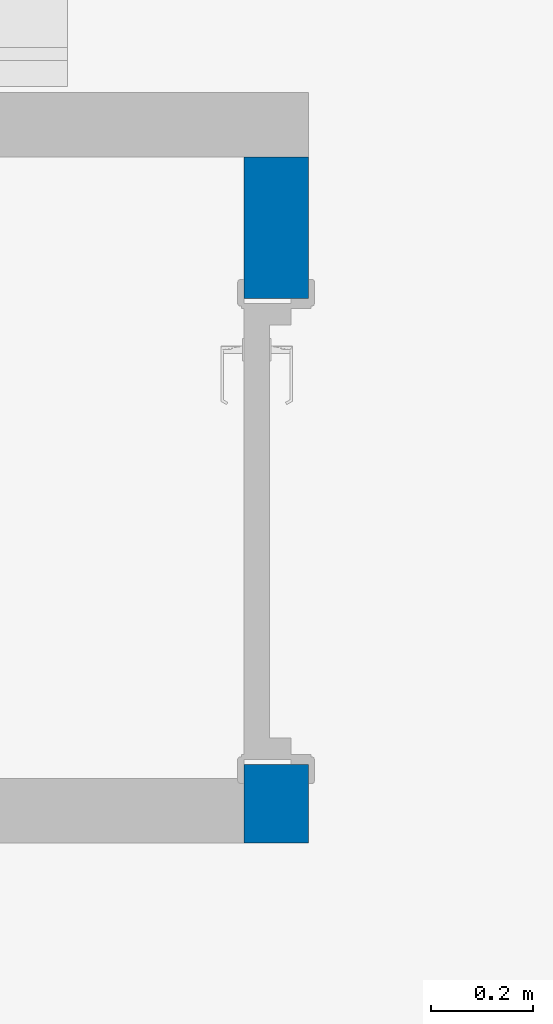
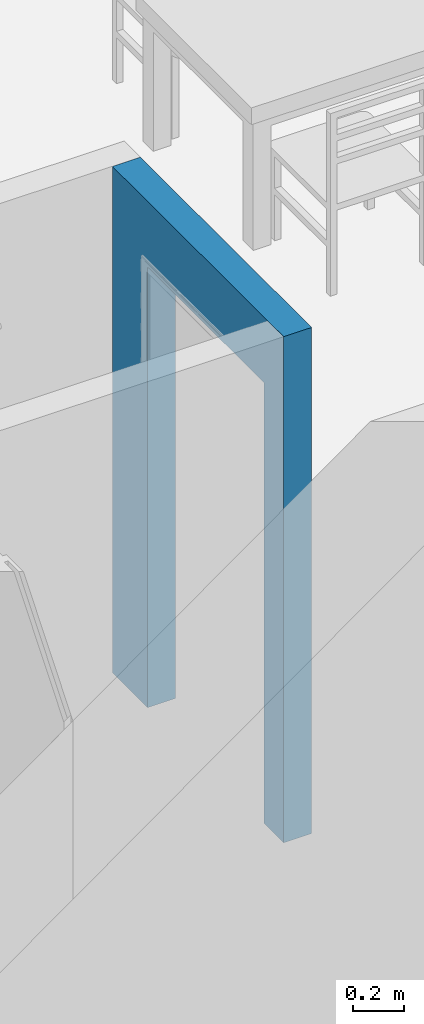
# One storey, part 17 of 65: 1 wall, 1 opening.
"""IFC2X3 building model written with IfcOpenShell, lengths in millimetres."""

from ifc_helpers import new_model, entity, si_unit, converted_unit, direction, frame, frame_2d, origin, place, context, subcontext, project, spatial, rectangle, extrude, material, layer, layer_set, layer_usage, type_object, element, save


model = new_model("IFC2X3")

# Units and contexts
model_context = context("Model", 3, precision=0.01, world=origin(), true_north=direction((0.0, 1.0)))
body_context = subcontext(model_context, "Body", "Model", "MODEL_VIEW")
ifc_project = project(units=[si_unit("LENGTHUNIT", "METRE", prefix="MILLI"), si_unit("AREAUNIT", "SQUARE_METRE"), si_unit("VOLUMEUNIT", "CUBIC_METRE"), converted_unit("PLANEANGLEUNIT", "DEGREE", entity("IfcPlaneAngleMeasure", 0.017453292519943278), si_unit("PLANEANGLEUNIT", "RADIAN"), dimensions=[0, 0, 0, 0, 0, 0, 0])], contexts=[model_context])

# Site, building, storey
site_placement = place(None, origin())
site = spatial("IfcSite", under=ifc_project, at=site_placement, Name="Default", CompositionType="ELEMENT")
building_placement = place(site_placement, origin())
building = spatial("IfcBuilding", under=site, at=building_placement, CompositionType="ELEMENT")
storey_placement = place(building_placement, origin())
storey = spatial("IfcBuildingStorey", under=building, at=storey_placement, Name="Et. 1", CompositionType="ELEMENT", Elevation=0.0)

# Wall, opening
ifc_material_1 = material(Name="Vegg - Gips - Innvendig - Hvit")
ifc_layer_1 = layer(ifc_material_1, 13.000000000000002)
ifc_material_2 = material(Name="Vegg - Stender - Stål - Isolert")
ifc_layer_2 = layer(ifc_material_2, 100.0)
ifc_layer_3 = layer(ifc_material_1, 13.000000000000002)
ifc_layer_set = layer_set([ifc_layer_1, ifc_layer_2, ifc_layer_3], Name="Basic Wall:24-GSIG-13_100_13")
ifc_layer_usage = layer_usage(ifc_layer_set, "AXIS2", "NEGATIVE", 63.00000000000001)
wall_type = type_object("IfcWallType", Name="Basic Wall:24-GSIG-13_100_13", PredefinedType="STANDARD", material=ifc_layer_set)
wall_placement = place(storey_placement, frame((24542.009586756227, 12093.058719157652, 0.0), z_axis=(0.0, 0.0, 1.0), x_axis=(0.0, -1.0, 0.0)))
wall = element("IfcWallStandardCase", 1, at=wall_placement, inside=storey, type_object=wall_type, material=ifc_layer_usage, Name="Basic Wall:24-GSIG-13_100_13", context=body_context, shape_type="SweptSolid", body=[
    extrude(rectangle(XDim=1338.8777614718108, YDim=126.00000000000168, at=frame_2d((669.4388807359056, -2.9842794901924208e-12), x_axis=(1.0, 0.0))), origin(), (0.0, 0.0, 1.0), 2413.0),
])
opening_placement = place(wall_placement, frame((1185.8777614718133, 63.0, 0.0)))
element("IfcOpeningElement", 2, at=opening_placement, cuts=wall, Name="ID Hel:9x21M:1", ObjectType="Opening", context=body_context, shape_type="SweptSolid", body=[
    extrude(rectangle(XDim=910.0000000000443, YDim=2100.0000000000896, at=frame_2d((1050.0000000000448, 455.00000000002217), x_axis=(0.0, -1.0))), frame((0.0, 0.0, 0.0), z_axis=(0.0, -1.0, 0.0), x_axis=(0.0, 0.0, 1.0)), (0.0, 0.0, 1.0), 126.00000000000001),
])

save(model, "model.ifc")
